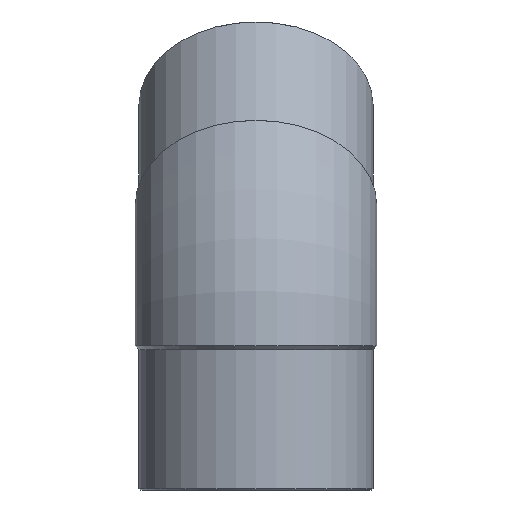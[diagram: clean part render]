
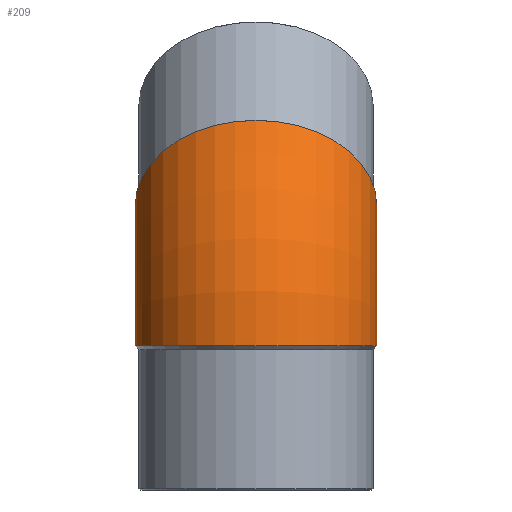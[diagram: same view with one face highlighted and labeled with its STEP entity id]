
A CAD part, left-side view. The second image highlights one B-rep face of the part: STEP entity #209.
In plain terms, the highlighted toroidal (fillet/blend) face has major radius 152.095 mm and minor radius 93 mm.
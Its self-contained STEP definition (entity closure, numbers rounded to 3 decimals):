
#20=TOROIDAL_SURFACE('',#249,152.095,93.);
#55=ORIENTED_EDGE('',*,*,#89,.F.);
#56=ORIENTED_EDGE('',*,*,#92,.T.);
#89=EDGE_CURVE('',#109,#109,#125,.F.);
#92=EDGE_CURVE('',#112,#112,#128,.F.);
#109=VERTEX_POINT('',#378);
#112=VERTEX_POINT('',#387);
#125=CIRCLE('',#244,93.);
#128=CIRCLE('',#250,93.);
#148=EDGE_LOOP('',(#55));
#149=EDGE_LOOP('',(#56));
#179=FACE_BOUND('',#148,.T.);
#180=FACE_BOUND('',#149,.T.);
#209=ADVANCED_FACE('',(#179,#180),#20,.T.);
#244=AXIS2_PLACEMENT_3D('',#377,#292,#293);
#249=AXIS2_PLACEMENT_3D('',#385,#302,#303);
#250=AXIS2_PLACEMENT_3D('',#386,#304,#305);
#292=DIRECTION('',(-0.707,0.,-0.707));
#293=DIRECTION('',(0.707,0.,-0.707));
#302=DIRECTION('',(0.,1.,0.));
#303=DIRECTION('',(0.,0.,1.));
#304=DIRECTION('',(0.,0.,-1.));
#305=DIRECTION('',(1.,0.,0.));
#377=CARTESIAN_POINT('',(44.548,0.,44.548));
#378=CARTESIAN_POINT('',(110.309,0.,-21.213));
#385=CARTESIAN_POINT('',(152.095,0.,-63.));
#386=CARTESIAN_POINT('',(0.,0.,-63.));
#387=CARTESIAN_POINT('',(93.,0.,-63.));
